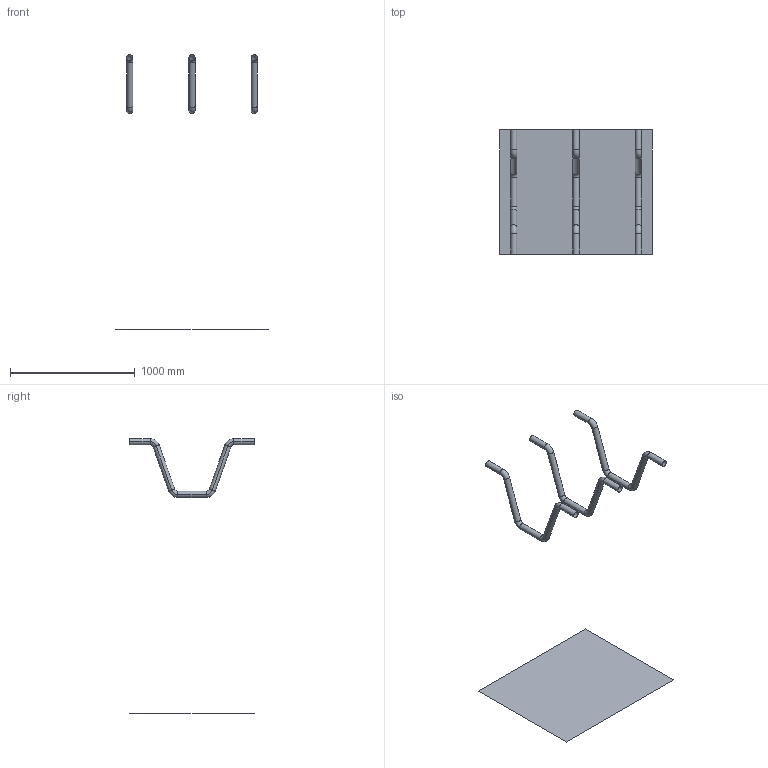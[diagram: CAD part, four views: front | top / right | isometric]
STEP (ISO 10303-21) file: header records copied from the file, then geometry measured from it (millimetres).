
FILE_DESCRIPTION(('CATIA V5 STEP Exchange'),'2;1');
FILE_NAME('C:\_Andres\UNIVERSIDAD\IQS\ASIGNATURAS\DAO\EXF\EXF-16172c\2inicio\Pascual_Sarrias_Ej08_v22.stp','2017-03-05T21:54:54+00:00',('none'),('none'),'CATIA Version 5-6 Release 2014 SP1 HF18','CATIA V5 STEP AP203','none');
FILE_SCHEMA(('CONFIG_CONTROL_DESIGN'));
Length unit declared in the file: millimetre
Products named in the file (1): Pascual_Sarrias_Ej08_v22
Bounding box: 1220 x 1000 x 2203 mm (x, y, z)
Surface area: 1954779 mm2 (no closed solid volume)
Topology: 0 solids, 4 shells, 55 faces, 118 edges, 64 vertices
Faces by surface type: cylinder 30, torus 24, plane 1
Entity records: 1283 total; most frequent: ORIENTED_EDGE 220, CARTESIAN_POINT 208, DIRECTION 168, EDGE_CURVE 118, AXIS2_PLACEMENT_3D 110, CIRCLE 84, VERTEX_POINT 64, ADVANCED_FACE 55
